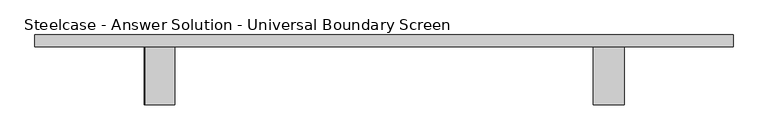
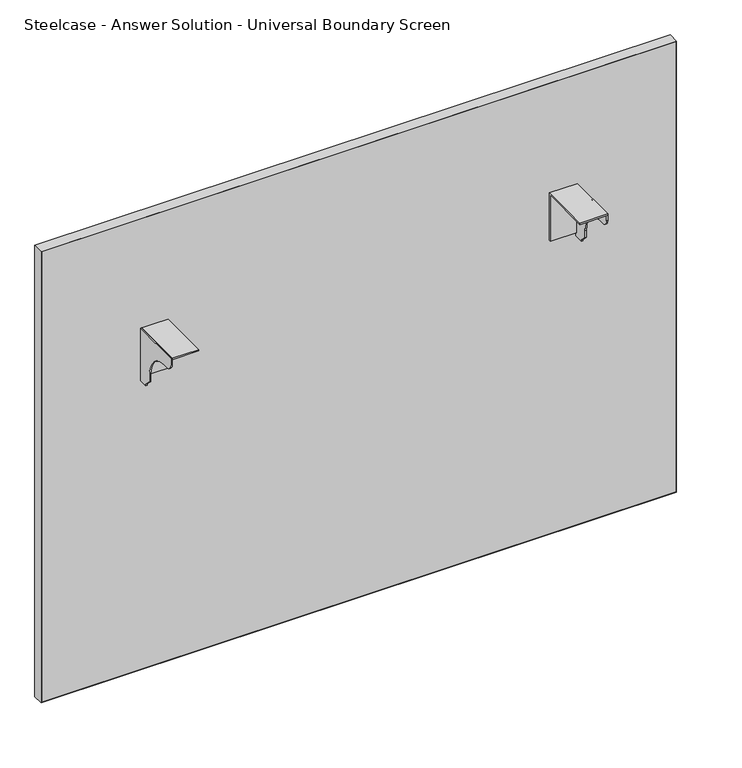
"""IFC4 building model written with IfcOpenShell, lengths in millimetres: furniture geometry, Steelcase - Answer Solution - Universal Boundary Screen : 36H x 48W."""

from ifc_helpers import new_model, si_unit, point, frame, frame_2d, origin, place, context, project, spatial, polyline, circle_curve, trimmed, segment, composite_curve, outline, extrude, source, transform, mapped, element, save


def steelcase_answer_solution_universal_boundary_screen_5577fce9(model_context):
    return source(origin(), model_context, "Body", "SweptSolid", [
        extrude(outline(polyline([(-103.1670434, 689.3558876), (-103.1670434, 692.1499758), (-1.5668826, 692.1499758), (-1.5668826, 595.5029317), (-4.1079736, 595.5029317), (-4.1079736, 689.3558876), (-103.1670434, 689.3558876)])), frame((895.8336711, 0.0, 0.0), z_axis=(1.0, 0.0, 0.0), x_axis=(0.0, 1.0, 0.0)), (0.0, 0.0, 1.0), 53.3444116),
        extrude(outline(composite_curve([segment(polyline([(-103.1670434, 679.2814802), (-103.1670434, 692.1499758), (-1.5668826, 692.1499758), (-1.5668826, 586.9634093), (-19.8232934, 586.9634093), (-19.8232934, 589.7574248), (-32.0458032, 601.9799346), (-32.0458032, 615.7814802)]), True, "CONTINUOUS"), segment(trimmed(circle_curve(frame_2d((-82.8458032, 615.7814802)), 50.8), [point((-32.0458032, 615.7814802))], [point((-82.8458032, 666.5814802))], True, "CARTESIAN"), True, "CONTINUOUS"), segment(polyline([(-82.8458032, 666.5814802), (-90.4670434, 666.5814802)]), True, "CONTINUOUS"), segment(trimmed(circle_curve(frame_2d((-90.4670434, 679.2814802)), 12.7), [point((-90.4670434, 666.5814802))], [point((-103.1670434, 679.2814802))], False, "CARTESIAN"), True, "CONTINUOUS")], self_intersect=False)), frame((946.6328959, 0.0, 0.0), z_axis=(1.0, 0.0, 0.0), x_axis=(0.0, 1.0, 0.0)), (0.0, 0.0, 1.0), 2.5451868),
        extrude(outline(polyline([(-103.1670434, 689.3558876), (-103.1670434, 692.1499758), (-1.5668826, 692.1499758), (-1.5668826, 595.5029317), (-4.1079736, 595.5029317), (-4.1079736, 689.3558876), (-103.1670434, 689.3558876)])), frame((113.5232694, 0.0, 0.0), z_axis=(1.0, 0.0, 0.0), x_axis=(0.0, 1.0, 0.0)), (0.0, 0.0, 1.0), 50.7992249),
        extrude(outline(composite_curve([segment(polyline([(-103.1670434, 679.2814802), (-103.1670434, 692.1499758), (-1.5668826, 692.1499758), (-1.5668826, 586.9634093), (-19.8232934, 586.9634093), (-19.8232934, 589.7574248), (-32.0458032, 601.9799346), (-32.0458032, 615.7814802)]), True, "CONTINUOUS"), segment(trimmed(circle_curve(frame_2d((-82.8458032, 615.7814802)), 50.8), [point((-32.0458032, 615.7814802))], [point((-82.8458032, 666.5814802))], True, "CARTESIAN"), True, "CONTINUOUS"), segment(polyline([(-82.8458032, 666.5814802), (-90.4670434, 666.5814802)]), True, "CONTINUOUS"), segment(trimmed(circle_curve(frame_2d((-90.4670434, 679.2814802)), 12.7), [point((-90.4670434, 666.5814802))], [point((-103.1670434, 679.2814802))], False, "CARTESIAN"), True, "CONTINUOUS")], self_intersect=False)), frame((110.9780827, 0.0, 0.0), z_axis=(1.0, 0.0, 0.0), x_axis=(0.0, 1.0, 0.0)), (0.0, 0.0, 1.0), 2.5451868),
        extrude(outline(polyline([(-78.5293422, 18.9055112), (1138.6855076, 18.9055112), (1138.6855076, -1.5668826), (-78.5293422, -1.5668826), (-78.5293422, 18.9055112)])), frame((0.0, 0.0, 1.016), z_axis=(0.0, 0.0, 1.0), x_axis=(1.0, 0.0, 0.0)), (0.0, 0.0, 1.0), 912.3914249),
        extrude(outline(polyline([(914.4, 1139.6780827), (914.4, -79.5219173), (0.0, -79.5219173), (0.0, 1139.6780827), (914.4, 1139.6780827)]), holes=[polyline([(913.4074249, 1138.6855076), (1.016, 1138.6855076), (1.016, -78.5293422), (913.4074249, -78.5293422), (913.4074249, 1138.6855076)])]), frame((0.0, -1.5668826, 0.0), z_axis=(0.0, 1.0, 0.0), x_axis=(0.0, 0.0, 1.0)), (0.0, 0.0, 1.0), 20.4723938),
    ])


if __name__ == "__main__":
    model = new_model("IFC4")
    model_context = context("Model", 3, world=origin())
    ifc_project = project(units=[si_unit("LENGTHUNIT", "METRE", prefix="MILLI")], contexts=[model_context])
    site = spatial("IfcSite", under=ifc_project)
    building = spatial("IfcBuilding", under=site)
    placement = place(None, origin())
    steelcase_answer_solution_universal_boundary_screen_shape = steelcase_answer_solution_universal_boundary_screen_5577fce9(model_context)
    element("IfcFurniture", 1, ObjectType="Steelcase - Answer Solution - Universal Boundary Screen : 36H x 48W", at=placement, inside=building, context=model_context, shape_type="MappedRepresentation", body=[
        mapped(steelcase_answer_solution_universal_boundary_screen_shape, transform((0.0, 0.0, 0.0), x_axis=(1.0, 0.0, 0.0), y_axis=(0.0, 1.0, 0.0), z_axis=(0.0, 0.0, 1.0))),
    ])
    save(model, "model.ifc")
